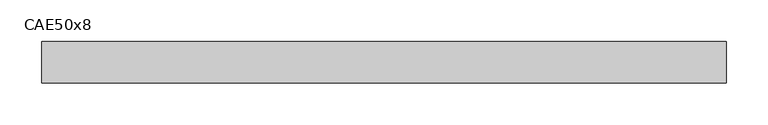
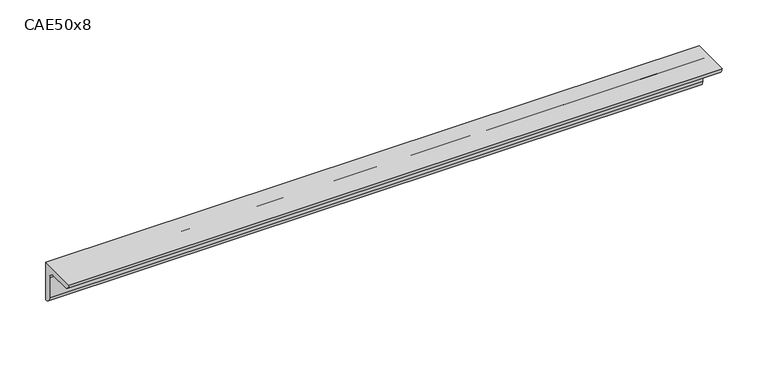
"""IFC4 building model written with IfcOpenShell, lengths in millimetres: beam geometry, L-Cornières : CAE50x8."""

from ifc_helpers import new_model, si_unit, point, frame, frame_2d, origin, place, context, project, spatial, polyline, circle_curve, trimmed, segment, composite_curve, outline, extrude, source, transform, mapped, element, save


def cae50x8_0d4c8ac9(model_context):
    return source(origin(), model_context, "Body", "SweptSolid", [
        extrude(outline(composite_curve([segment(polyline([(15.2, 15.2), (15.2, -34.8)]), True, "CONTINUOUS"), segment(trimmed(circle_curve(frame_2d((15.2, -26.8)), 8.0), [point((15.2, -34.8))], [point((7.2, -26.8))], False, "CARTESIAN"), True, "CONTINUOUS"), segment(polyline([(7.2, -26.8), (7.2, -0.8)]), True, "CONTINUOUS"), segment(trimmed(circle_curve(frame_2d((-0.8, -0.8)), 8.0), [point((7.2, -0.8))], [point((-0.8, 7.2))], True, "CARTESIAN"), True, "CONTINUOUS"), segment(polyline([(-0.8, 7.2), (-26.8, 7.2)]), True, "CONTINUOUS"), segment(trimmed(circle_curve(frame_2d((-26.8, 15.2)), 8.0), [point((-26.8, 7.2))], [point((-34.8, 15.2))], False, "CARTESIAN"), True, "CONTINUOUS"), segment(polyline([(-34.8, 15.2), (15.2, 15.2)]), True, "CONTINUOUS")], self_intersect=False)), frame((-412.0, 0.0, 0.0), z_axis=(1.0, 0.0, 0.0), x_axis=(0.0, 1.0, 0.0)), (0.0, 0.0, 1.0), 820.0),
    ])


if __name__ == "__main__":
    model = new_model("IFC4")
    model_context = context("Model", 3, world=origin())
    ifc_project = project(units=[si_unit("LENGTHUNIT", "METRE", prefix="MILLI")], contexts=[model_context])
    site = spatial("IfcSite", under=ifc_project)
    building = spatial("IfcBuilding", under=site)
    placement = place(None, origin())
    cae50x8_shape = cae50x8_0d4c8ac9(model_context)
    element("IfcBeam", 1, ObjectType="L-Cornières : CAE50x8", at=placement, inside=building, context=model_context, shape_type="MappedRepresentation", body=[
        mapped(cae50x8_shape, transform((0.0, 0.0, 0.0), x_axis=(1.0, 0.0, 0.0), y_axis=(0.0, 1.0, 0.0), z_axis=(0.0, 0.0, 1.0))),
    ])
    save(model, "model.ifc")
